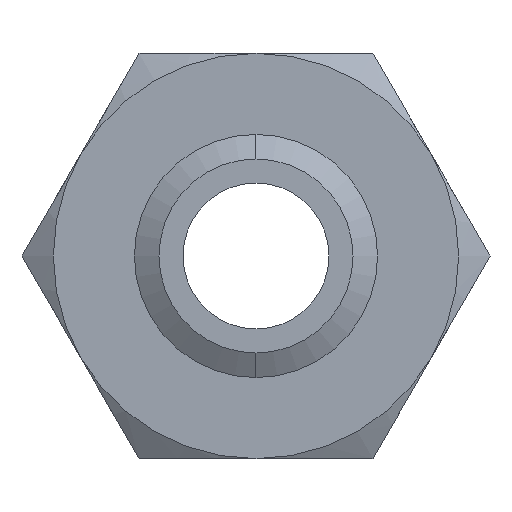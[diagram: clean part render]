
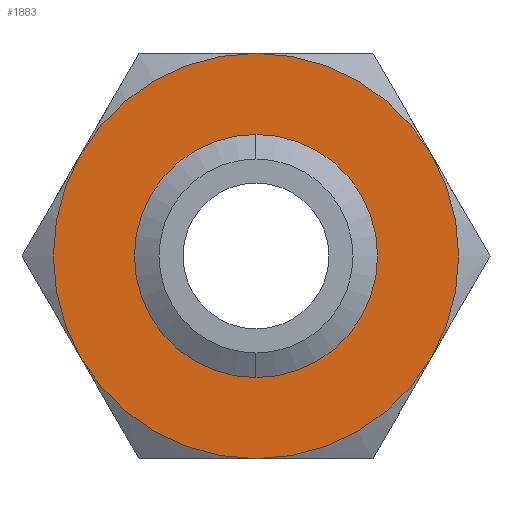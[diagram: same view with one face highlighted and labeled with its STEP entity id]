
A CAD part, front view. The second image highlights one B-rep face of the part: STEP entity #1883.
In plain terms, the highlighted planar face has unit normal (0, -1, 0).
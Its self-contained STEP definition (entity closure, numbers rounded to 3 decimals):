
#97 = EDGE_CURVE ( 'NONE', #2094, #2059, #531, .T. ) ;
#527 = DIRECTION ( 'NONE',  ( 0., 0., 1. ) ) ;
#528 = DIRECTION ( 'NONE',  ( 0., 1., 0. ) ) ;
#529 = CARTESIAN_POINT ( 'NONE',  ( 0., 0., 0. ) ) ;
#530 = AXIS2_PLACEMENT_3D ( 'NONE', #529, #528, #527 ) ;
#531 = CIRCLE ( 'NONE', #530, 25. ) ;
#1014 = CIRCLE ( 'NONE', #1074, 25. ) ;
#1061 = DIRECTION ( 'NONE',  ( 0., 0., 1. ) ) ;
#1062 = DIRECTION ( 'NONE',  ( 0., 1., 0. ) ) ;
#1073 = CARTESIAN_POINT ( 'NONE',  ( 0., 0., 0. ) ) ;
#1074 = AXIS2_PLACEMENT_3D ( 'NONE', #1073, #1062, #1061 ) ;
#1094 = CARTESIAN_POINT ( 'NONE',  ( 0., 0., -11.969 ) ) ;
#1099 = CARTESIAN_POINT ( 'NONE',  ( 0., 0., 11.969 ) ) ;
#1106 = FACE_BOUND ( 'NONE', #2077, .T. ) ;
#1107 = FACE_OUTER_BOUND ( 'NONE', #1887, .T. ) ;
#1164 = DIRECTION ( 'NONE',  ( 0., 0., 1. ) ) ;
#1165 = DIRECTION ( 'NONE',  ( 0., 1., 0. ) ) ;
#1166 = CARTESIAN_POINT ( 'NONE',  ( 14.434, 0., -25. ) ) ;
#1167 = AXIS2_PLACEMENT_3D ( 'NONE', #1166, #1165, #1164 ) ;
#1168 = PLANE ( 'NONE',  #1167 ) ;
#1190 = DIRECTION ( 'NONE',  ( 0., 0., -1. ) ) ;
#1191 = DIRECTION ( 'NONE',  ( 0., -1., 0. ) ) ;
#1192 = CARTESIAN_POINT ( 'NONE',  ( 0., 0., 0. ) ) ;
#1193 = AXIS2_PLACEMENT_3D ( 'NONE', #1192, #1191, #1190 ) ;
#1194 = CIRCLE ( 'NONE', #1193, 11.969 ) ;
#1512 = CARTESIAN_POINT ( 'NONE',  ( 0., 0., 25. ) ) ;
#1518 = CARTESIAN_POINT ( 'NONE',  ( 21.651, 0., 12.5 ) ) ;
#1559 = CARTESIAN_POINT ( 'NONE',  ( 0., 0., 0. ) ) ;
#1560 = DIRECTION ( 'NONE',  ( 0., 0., 1. ) ) ;
#1561 = DIRECTION ( 'NONE',  ( 0., 1., 0. ) ) ;
#1562 = CARTESIAN_POINT ( 'NONE',  ( 0., 0., 0. ) ) ;
#1563 = AXIS2_PLACEMENT_3D ( 'NONE', #1562, #1561, #1560 ) ;
#1564 = CIRCLE ( 'NONE', #1563, 25. ) ;
#1565 = DIRECTION ( 'NONE',  ( 0., 0., 1. ) ) ;
#1566 = DIRECTION ( 'NONE',  ( 0., 1., 0. ) ) ;
#1567 = CARTESIAN_POINT ( 'NONE',  ( 0., 0., 0. ) ) ;
#1568 = AXIS2_PLACEMENT_3D ( 'NONE', #1567, #1566, #1565 ) ;
#1569 = CIRCLE ( 'NONE', #1568, 25. ) ;
#1570 = DIRECTION ( 'NONE',  ( 0., 0., 1. ) ) ;
#1571 = DIRECTION ( 'NONE',  ( 0., 1., 0. ) ) ;
#1572 = CARTESIAN_POINT ( 'NONE',  ( 0., 0., 0. ) ) ;
#1573 = AXIS2_PLACEMENT_3D ( 'NONE', #1572, #1571, #1570 ) ;
#1577 = CIRCLE ( 'NONE', #1573, 25. ) ;
#1582 = CARTESIAN_POINT ( 'NONE',  ( -21.651, 0., 12.5 ) ) ;
#1602 = DIRECTION ( 'NONE',  ( 0., 0., 1. ) ) ;
#1603 = DIRECTION ( 'NONE',  ( 0., 1., 0. ) ) ;
#1604 = CARTESIAN_POINT ( 'NONE',  ( 0., 0., 0. ) ) ;
#1605 = AXIS2_PLACEMENT_3D ( 'NONE', #1604, #1603, #1602 ) ;
#1606 = CIRCLE ( 'NONE', #1605, 25. ) ;
#1609 = CARTESIAN_POINT ( 'NONE',  ( 0., 0., -25. ) ) ;
#1610 = CARTESIAN_POINT ( 'NONE',  ( -21.651, 0., -12.5 ) ) ;
#1611 = CARTESIAN_POINT ( 'NONE',  ( 21.651, 0., -12.5 ) ) ;
#1612 = DIRECTION ( 'NONE',  ( 0., 0., -1. ) ) ;
#1613 = DIRECTION ( 'NONE',  ( 0., -1., 0. ) ) ;
#1614 = AXIS2_PLACEMENT_3D ( 'NONE', #1559, #1613, #1612 ) ;
#1615 = CIRCLE ( 'NONE', #1614, 11.969 ) ;
#1826 = EDGE_CURVE ( 'NONE', #2059, #2054, #1014, .T. ) ;
#1828 = ORIENTED_EDGE ( 'NONE', *, *, #1826, .F. ) ;
#1846 = VERTEX_POINT ( 'NONE', #1099 ) ;
#1847 = VERTEX_POINT ( 'NONE', #1094 ) ;
#1883 = ADVANCED_FACE ( 'NONE', ( #1107, #1106 ), #1168, .F. ) ;
#1887 = EDGE_LOOP ( 'NONE', ( #1828, #2057, #2113, #2090, #2098, #2069 ) ) ;
#1900 = EDGE_CURVE ( 'NONE', #1847, #1846, #1194, .T. ) ;
#2054 = VERTEX_POINT ( 'NONE', #1518 ) ;
#2057 = ORIENTED_EDGE ( 'NONE', *, *, #97, .F. ) ;
#2059 = VERTEX_POINT ( 'NONE', #1512 ) ;
#2060 = ORIENTED_EDGE ( 'NONE', *, *, #2107, .F. ) ;
#2069 = ORIENTED_EDGE ( 'NONE', *, *, #2115, .F. ) ;
#2077 = EDGE_LOOP ( 'NONE', ( #2079, #2060 ) ) ;
#2079 = ORIENTED_EDGE ( 'NONE', *, *, #1900, .F. ) ;
#2090 = ORIENTED_EDGE ( 'NONE', *, *, #2101, .F. ) ;
#2094 = VERTEX_POINT ( 'NONE', #1582 ) ;
#2098 = ORIENTED_EDGE ( 'NONE', *, *, #2105, .F. ) ;
#2099 = EDGE_CURVE ( 'NONE', #2110, #2094, #1577, .T. ) ;
#2101 = EDGE_CURVE ( 'NONE', #2112, #2110, #1569, .T. ) ;
#2105 = EDGE_CURVE ( 'NONE', #2108, #2112, #1564, .T. ) ;
#2107 = EDGE_CURVE ( 'NONE', #1846, #1847, #1615, .T. ) ;
#2108 = VERTEX_POINT ( 'NONE', #1611 ) ;
#2110 = VERTEX_POINT ( 'NONE', #1610 ) ;
#2112 = VERTEX_POINT ( 'NONE', #1609 ) ;
#2113 = ORIENTED_EDGE ( 'NONE', *, *, #2099, .F. ) ;
#2115 = EDGE_CURVE ( 'NONE', #2054, #2108, #1606, .T. ) ;
